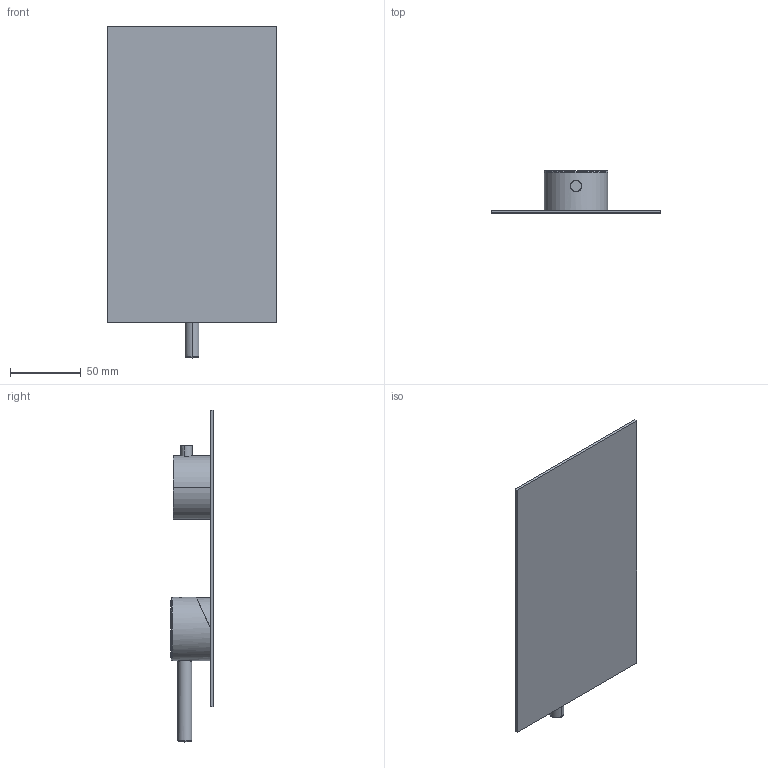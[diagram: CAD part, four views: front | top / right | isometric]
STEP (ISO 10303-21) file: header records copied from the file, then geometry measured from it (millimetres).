
FILE_DESCRIPTION (( 'STEP AP214' ), '1' );
FILE_NAME ('12213210 x architetti.STEP', '2024-09-16T09:10:30', ( '' ), ( '' ), 'SwSTEP 2.0', 'SolidWorks 2020', '' );
FILE_SCHEMA (( 'AUTOMOTIVE_DESIGN' ));
Length unit declared in the file: millimetre
Products named in the file (1): 12213210 x architetti
Bounding box: 120 x 30.13 x 235 mm (x, y, z)
Volume: 141726 mm3; surface area: 61481.2 mm2
Topology: 1 solids, 2 shells, 45 faces, 101 edges, 60 vertices
Faces by surface type: cylinder 21, bspline 11, plane 9, torus 2, cone 2
Entity records: 2665 total; most frequent: CARTESIAN_POINT 1321, ORIENTED_EDGE 194, DIRECTION 167, EDGE_CURVE 97, AXIS2_PLACEMENT_3D 66, VERTEX_POINT 60, EDGE_LOOP 49, FACE_OUTER_BOUND 45
